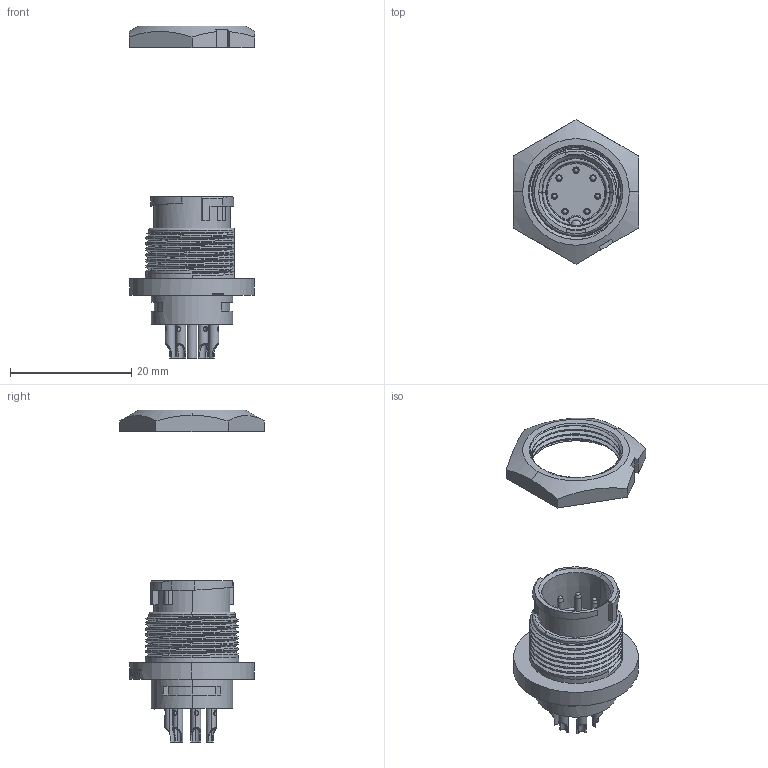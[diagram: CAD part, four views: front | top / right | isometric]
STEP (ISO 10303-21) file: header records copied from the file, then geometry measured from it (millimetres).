
FILE_DESCRIPTION (( 'STEP AP214' ), '1' );
FILE_NAME ('EN3P7MX.STEP', '2014-07-02T20:35:53', ( '' ), ( '' ), 'SwSTEP 2.0', 'SolidWorks 2014', '' );
FILE_SCHEMA (( 'AUTOMOTIVE_DESIGN' ));
Length unit declared in the file: inch
Products named in the file (1): EN3P7MX
Bounding box: 20.64 x 23.83 x 54.79 mm (x, y, z)
Volume: 3546 mm3; surface area: 3475.6 mm2
Topology: 2 solids, 2 shells, 484 faces, 1323 edges, 867 vertices
Faces by surface type: plane 162, cylinder 151, bspline 124, cone 37, torus 10
Entity records: 33257 total; most frequent: CARTESIAN_POINT 21580, ORIENTED_EDGE 2644, DIRECTION 1893, EDGE_CURVE 1322, VERTEX_POINT 867, AXIS2_PLACEMENT_3D 666, LINE 561, VECTOR 561
